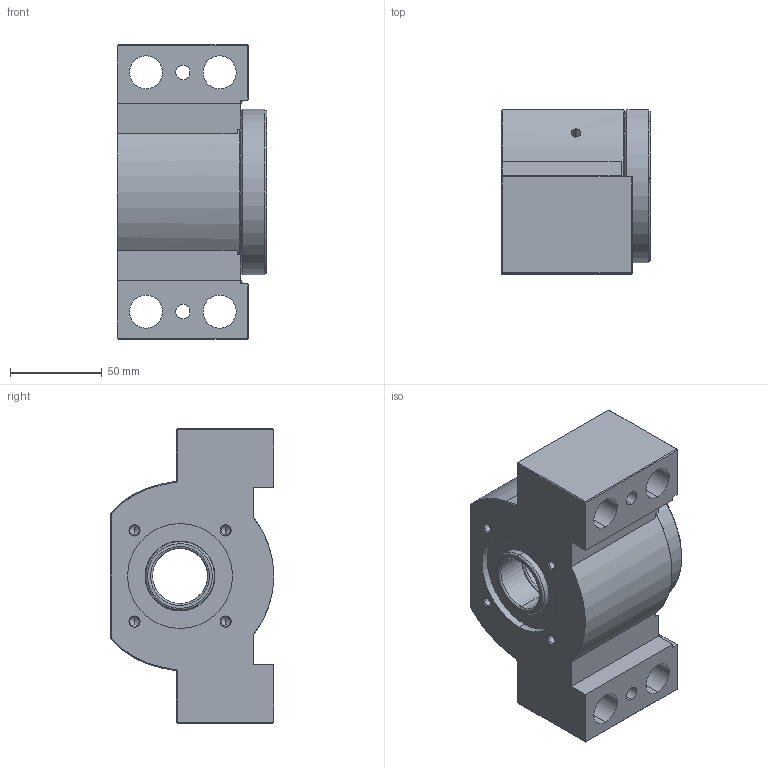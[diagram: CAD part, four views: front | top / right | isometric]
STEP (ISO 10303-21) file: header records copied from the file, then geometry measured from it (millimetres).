
FILE_DESCRIPTION (( 'STEP AP203' ), '1' );
FILE_NAME ('SBK30DFD²Õ¦X.STEP', '2010-08-13T12:09:21', ( '' ), ( '' ), 'SwSTEP 2.0', 'SolidWorks 2008', '' );
FILE_SCHEMA (( 'CONFIG_CONTROL_DESIGN' ));
Length unit declared in the file: millimetre
Products named in the file (1): SBK30DFD組合
Bounding box: 81 x 89 x 160 mm (x, y, z)
Volume: 666312.5 mm3; surface area: 166861 mm2
Topology: 66 solids, 66 shells, 536 faces, 1334 edges, 820 vertices
Faces by surface type: cylinder 155, cone 131, sphere 108, plane 94, torus 48
Entity records: 14066 total; most frequent: DIRECTION 2713, CARTESIAN_POINT 2473, ORIENTED_EDGE 2088, AXIS2_PLACEMENT_3D 1158, EDGE_CURVE 1044, VERTEX_POINT 658, CIRCLE 621, EDGE_LOOP 604
